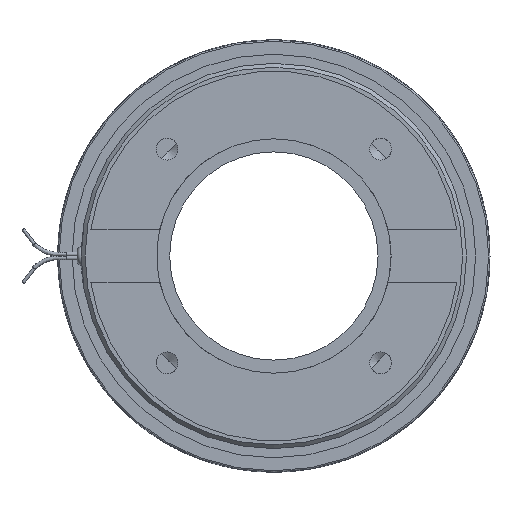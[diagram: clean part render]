
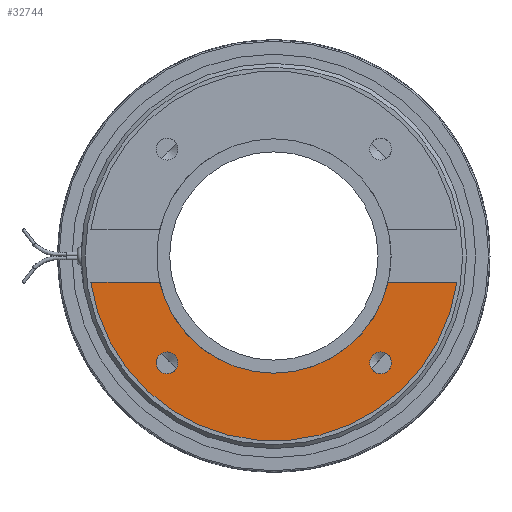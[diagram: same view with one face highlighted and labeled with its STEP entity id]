
A CAD part, left-side view. The second image highlights one B-rep face of the part: STEP entity #32744.
In plain terms, the highlighted planar face has unit normal (-1, 0, 0).
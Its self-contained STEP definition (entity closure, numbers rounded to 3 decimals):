
#2134=FACE_BOUND('',#5670,.T.);
#2135=FACE_BOUND('',#5671,.T.);
#2179=PLANE('',#34571);
#3927=FACE_OUTER_BOUND('',#5669,.T.);
#5669=EDGE_LOOP('',(#20911,#20912,#20913,#20914));
#5670=EDGE_LOOP('',(#20915));
#5671=EDGE_LOOP('',(#20916));
#7461=CIRCLE('',#34559,4.188);
#7463=CIRCLE('',#34563,4.188);
#7468=CIRCLE('',#34572,45.);
#7469=CIRCLE('',#34573,71.);
#8444=LINE('',#51370,#10347);
#8445=LINE('',#51374,#10348);
#10347=VECTOR('',#39489,10.);
#10348=VECTOR('',#39492,10.);
#12306=VERTEX_POINT('',#51348);
#12307=VERTEX_POINT('',#51354);
#12310=VERTEX_POINT('',#51368);
#12311=VERTEX_POINT('',#51369);
#12312=VERTEX_POINT('',#51371);
#12313=VERTEX_POINT('',#51373);
#15710=EDGE_CURVE('',#12306,#12306,#7461,.T.);
#15713=EDGE_CURVE('',#12307,#12307,#7463,.T.);
#15720=EDGE_CURVE('',#12310,#12311,#8444,.T.);
#15721=EDGE_CURVE('',#12311,#12312,#7468,.T.);
#15722=EDGE_CURVE('',#12312,#12313,#8445,.T.);
#15723=EDGE_CURVE('',#12310,#12313,#7469,.T.);
#20911=ORIENTED_EDGE('',*,*,#15720,.T.);
#20912=ORIENTED_EDGE('',*,*,#15721,.T.);
#20913=ORIENTED_EDGE('',*,*,#15722,.T.);
#20914=ORIENTED_EDGE('',*,*,#15723,.F.);
#20915=ORIENTED_EDGE('',*,*,#15710,.T.);
#20916=ORIENTED_EDGE('',*,*,#15713,.T.);
#32744=ADVANCED_FACE('',(#3927,#2134,#2135),#2179,.T.);
#34559=AXIS2_PLACEMENT_3D('',#51349,#39460,#39461);
#34563=AXIS2_PLACEMENT_3D('',#51355,#39469,#39470);
#34571=AXIS2_PLACEMENT_3D('',#51367,#39487,#39488);
#34572=AXIS2_PLACEMENT_3D('',#51372,#39490,#39491);
#34573=AXIS2_PLACEMENT_3D('',#51375,#39493,#39494);
#39460=DIRECTION('center_axis',(1.,0.,0.));
#39461=DIRECTION('ref_axis',(0.,0.,1.));
#39469=DIRECTION('center_axis',(1.,0.,0.));
#39470=DIRECTION('ref_axis',(0.,0.,1.));
#39487=DIRECTION('center_axis',(-1.,0.,0.));
#39488=DIRECTION('ref_axis',(0.,0.,1.));
#39489=DIRECTION('',(0.,1.,0.));
#39490=DIRECTION('center_axis',(1.,0.,0.));
#39491=DIRECTION('ref_axis',(0.,0.,-1.));
#39492=DIRECTION('',(0.,1.,0.));
#39493=DIRECTION('center_axis',(1.,0.,0.));
#39494=DIRECTION('ref_axis',(0.,0.,-1.));
#51348=CARTESIAN_POINT('',(-19.,-41.012,-45.2));
#51349=CARTESIAN_POINT('Origin',(-19.,-41.012,-41.012));
#51354=CARTESIAN_POINT('',(-19.,41.012,-45.2));
#51355=CARTESIAN_POINT('Origin',(-19.,41.012,-41.012));
#51367=CARTESIAN_POINT('Origin',(-19.,71.,0.));
#51368=CARTESIAN_POINT('',(-19.,-70.292,-10.));
#51369=CARTESIAN_POINT('',(-19.,-43.875,-10.));
#51370=CARTESIAN_POINT('',(-19.,-9.5,-10.));
#51371=CARTESIAN_POINT('',(-19.,43.875,-10.));
#51372=CARTESIAN_POINT('Origin',(-19.,0.,0.));
#51373=CARTESIAN_POINT('',(-19.,70.292,-10.));
#51374=CARTESIAN_POINT('',(-19.,-9.5,-10.));
#51375=CARTESIAN_POINT('Origin',(-19.,0.,0.));
